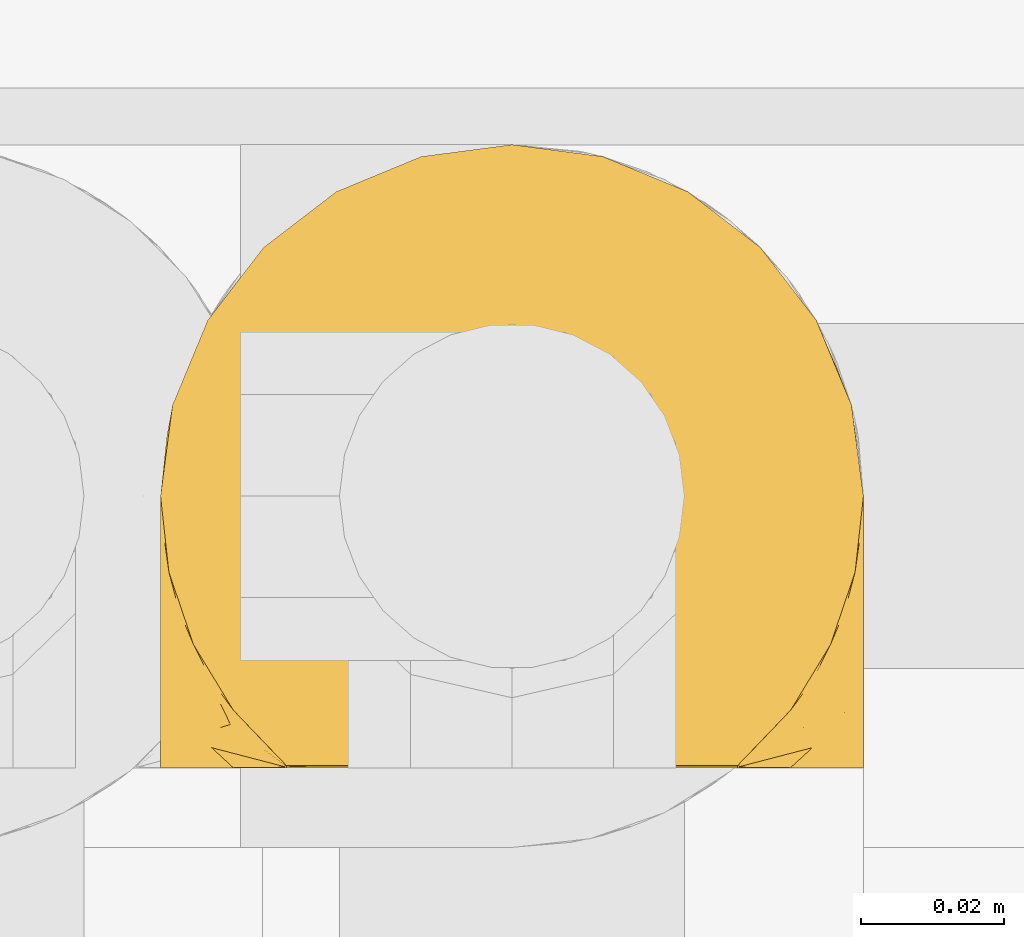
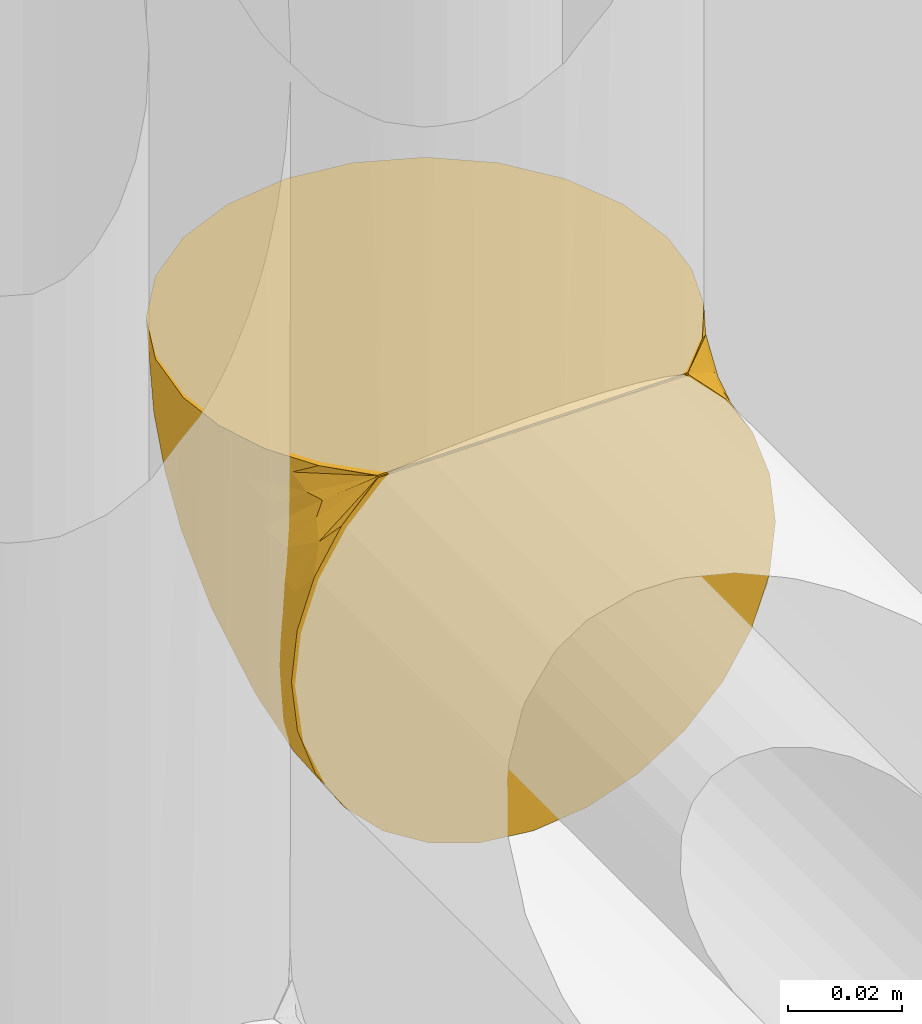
# One storey, part 51 of 94: 1 covering.
"""IFC2X3 building model written with IfcOpenShell, lengths in millimetres."""

from ifc_helpers import new_model, entity, si_unit, converted_unit, derived_unit, direction, frame, origin, place, context, subcontext, project, spatial, faceted_brep, material, element, save


model = new_model("IFC2X3")

# Units and contexts
model_context = context("Model", 3, precision=0.01, world=origin(), true_north=direction((6.123031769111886e-17, 1.0)))
body_context = subcontext(model_context, "Body", "Model", "MODEL_VIEW")
ifc_project = project(units=[si_unit("LENGTHUNIT", "METRE", prefix="MILLI"), si_unit("AREAUNIT", "SQUARE_METRE"), si_unit("VOLUMEUNIT", "CUBIC_METRE"), converted_unit("PLANEANGLEUNIT", "DEGREE", entity("IfcRatioMeasure", 0.017453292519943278), si_unit("PLANEANGLEUNIT", "RADIAN"), dimensions=[0, 0, 0, 0, 0, 0, 0]), si_unit("MASSUNIT", "GRAM", prefix="KILO"), derived_unit("MASSDENSITYUNIT", [(si_unit("MASSUNIT", "GRAM", prefix="KILO"), 1), (si_unit("LENGTHUNIT", "METRE"), -3)]), derived_unit("IONCONCENTRATIONUNIT", [(si_unit("MASSUNIT", "GRAM", prefix="KILO"), 1), (si_unit("LENGTHUNIT", "METRE"), -3)]), derived_unit("MOMENTOFINERTIAUNIT", [(si_unit("LENGTHUNIT", "METRE"), 4)]), si_unit("TIMEUNIT", "SECOND"), si_unit("FREQUENCYUNIT", "HERTZ"), si_unit("THERMODYNAMICTEMPERATUREUNIT", "DEGREE_CELSIUS"), derived_unit("THERMALTRANSMITTANCEUNIT", [(si_unit("MASSUNIT", "GRAM", prefix="KILO"), 1), (si_unit("THERMODYNAMICTEMPERATUREUNIT", "KELVIN"), -1), (si_unit("TIMEUNIT", "SECOND"), -3)]), derived_unit("THERMALCONDUCTANCEUNIT", [(si_unit("MASSUNIT", "GRAM", prefix="KILO"), 1), (si_unit("THERMODYNAMICTEMPERATUREUNIT", "KELVIN"), -1), (si_unit("TIMEUNIT", "SECOND"), -3), (si_unit("LENGTHUNIT", "METRE"), 1)]), derived_unit("VOLUMETRICFLOWRATEUNIT", [(si_unit("LENGTHUNIT", "METRE"), 3), (si_unit("TIMEUNIT", "SECOND"), -1)]), derived_unit("MASSFLOWRATEUNIT", [(si_unit("MASSUNIT", "GRAM", prefix="KILO"), 1), (si_unit("TIMEUNIT", "SECOND"), -1)]), derived_unit("ROTATIONALFREQUENCYUNIT", [(si_unit("TIMEUNIT", "SECOND"), -1)]), si_unit("ELECTRICCURRENTUNIT", "AMPERE"), si_unit("ELECTRICVOLTAGEUNIT", "VOLT"), si_unit("POWERUNIT", "WATT"), si_unit("FORCEUNIT", "NEWTON", prefix="KILO"), si_unit("ILLUMINANCEUNIT", "LUX"), si_unit("LUMINOUSFLUXUNIT", "LUMEN"), si_unit("LUMINOUSINTENSITYUNIT", "CANDELA"), derived_unit("USERDEFINED", [(si_unit("MASSUNIT", "GRAM", prefix="KILO"), -1), (si_unit("LENGTHUNIT", "METRE"), -2), (si_unit("TIMEUNIT", "SECOND"), 3), (si_unit("LUMINOUSFLUXUNIT", "LUMEN"), 1)]), derived_unit("USERDEFINED", [(si_unit("MASSUNIT", "GRAM", prefix="KILO"), 1), (si_unit("TIMEUNIT", "SECOND"), -3), (si_unit("LENGTHUNIT", "METRE"), 3), (si_unit("ELECTRICCURRENTUNIT", "AMPERE"), -2)]), derived_unit("SOUNDPOWERUNIT", [(si_unit("MASSUNIT", "GRAM", prefix="KILO"), 1), (si_unit("TIMEUNIT", "SECOND"), -3), (si_unit("LENGTHUNIT", "METRE"), 2)]), derived_unit("SOUNDPRESSUREUNIT", [(si_unit("MASSUNIT", "GRAM", prefix="KILO"), 1), (si_unit("LENGTHUNIT", "METRE"), -1), (si_unit("TIMEUNIT", "SECOND"), -2)]), derived_unit("LINEARVELOCITYUNIT", [(si_unit("LENGTHUNIT", "METRE"), 1), (si_unit("TIMEUNIT", "SECOND"), -1)]), si_unit("PRESSUREUNIT", "PASCAL"), derived_unit("USERDEFINED", [(si_unit("MASSUNIT", "GRAM", prefix="KILO"), 1), (si_unit("LENGTHUNIT", "METRE"), -2), (si_unit("TIMEUNIT", "SECOND"), -2)]), derived_unit("LINEARFORCEUNIT", [(si_unit("MASSUNIT", "GRAM", prefix="KILO"), 1), (si_unit("TIMEUNIT", "SECOND"), -2)]), derived_unit("PLANARFORCEUNIT", [(si_unit("MASSUNIT", "GRAM", prefix="KILO"), 1), (si_unit("LENGTHUNIT", "METRE"), -1), (si_unit("TIMEUNIT", "SECOND"), -2)]), derived_unit("SPECIFICHEATCAPACITYUNIT", [(si_unit("THERMODYNAMICTEMPERATUREUNIT", "KELVIN"), -1), (si_unit("LENGTHUNIT", "METRE"), 2), (si_unit("TIMEUNIT", "SECOND"), -2)]), derived_unit("HEATINGVALUEUNIT", [(si_unit("LENGTHUNIT", "METRE"), 2), (si_unit("TIMEUNIT", "SECOND"), -2)]), derived_unit("VAPORPERMEABILITYUNIT", [(si_unit("LENGTHUNIT", "METRE"), -1), (si_unit("TIMEUNIT", "SECOND"), 1)]), derived_unit("DYNAMICVISCOSITYUNIT", [(si_unit("MASSUNIT", "GRAM", prefix="KILO"), 1), (si_unit("TIMEUNIT", "SECOND"), -1), (si_unit("LENGTHUNIT", "METRE"), -1)]), derived_unit("THERMALEXPANSIONCOEFFICIENTUNIT", [(si_unit("THERMODYNAMICTEMPERATUREUNIT", "KELVIN"), -1)]), derived_unit("MODULUSOFELASTICITYUNIT", [(si_unit("MASSUNIT", "GRAM", prefix="KILO"), 1), (si_unit("LENGTHUNIT", "METRE"), -1), (si_unit("TIMEUNIT", "SECOND"), -2)]), derived_unit("ISOTHERMALMOISTURECAPACITYUNIT", [(si_unit("LENGTHUNIT", "METRE"), 3), (si_unit("MASSUNIT", "GRAM", prefix="KILO"), -1)]), derived_unit("MOISTUREDIFFUSIVITYUNIT", [(si_unit("TIMEUNIT", "SECOND"), -1), (si_unit("LENGTHUNIT", "METRE"), 2)])], contexts=[model_context])

# Site, building, storey
site_placement = place(None, origin())
site = spatial("IfcSite", under=ifc_project, at=site_placement, Name="Default", CompositionType="ELEMENT")
building_placement = place(site_placement, origin())
building = spatial("IfcBuilding", under=site, at=building_placement, CompositionType="ELEMENT")
storey_placement = place(building_placement, origin())
storey = spatial("IfcBuildingStorey", under=building, at=storey_placement, Name="Niveau 0", CompositionType="ELEMENT", Elevation=0.0)

# Covering
ifc_material = material(Name="Isolation - Laine minérale")
covering_placement = place(storey_placement, frame((-6977.4859544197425, 9987.250352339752, 557.254727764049)))
element("IfcCovering", 1, at=covering_placement, inside=storey, material=ifc_material, Name="Isolation des canalisations:Laine minérale", ObjectType="Isolation des canalisations:Laine minérale", PredefinedType="INSULATION", context=body_context, shape_type="Brep", body=[
    faceted_brep([(6.466386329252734, 1.5952722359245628, 29.412134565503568), (12.324234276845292, 1.5952722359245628, 20.093252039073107), (20.107905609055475, 1.5952722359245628, 12.312548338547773), (29.426998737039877, 1.5952722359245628, 6.459227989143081), (39.814613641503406, 1.5952722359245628, 2.8261403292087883), (50.74527223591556, 1.5952722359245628, 1.5952722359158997), (61.68764083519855, 1.5952722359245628, 2.8288129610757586), (72.07840990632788, 1.5952722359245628, 6.466386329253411), (81.39729243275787, 1.5952722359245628, 12.32423427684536), (89.17799613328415, 1.5952722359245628, 20.10790560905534), (95.03131648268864, 1.5952722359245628, 29.426998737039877), (98.66440414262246, 1.5952722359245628, 39.814613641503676), (99.89527223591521, 1.5952722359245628, 50.74527223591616), (98.72554303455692, 1.5952722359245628, 61.40435822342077), (95.27367575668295, 1.5952722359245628, 71.55257335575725), (89.70550239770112, 1.5952722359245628, 80.70896636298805), (82.29617110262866, 1.5952722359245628, 88.43165280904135), (79.85190220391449, 1.5952722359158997, 88.43165280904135), (78.07484973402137, 1.5952722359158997, 88.43165280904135), (76.29779726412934, 1.5952722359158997, 88.43165280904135), (74.79820380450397, 1.5952722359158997, 88.43165280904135), (73.2986103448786, 1.5952722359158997, 88.43165280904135), (70.29942342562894, 1.5952722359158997, 88.43165280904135), (67.3002365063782, 1.5952722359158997, 88.43165280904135), (64.30104958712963, 1.5952722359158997, 88.43165280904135), (61.301862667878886, 1.5952722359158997, 88.43165280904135), (59.8022692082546, 1.5952722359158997, 88.43165280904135), (58.30267574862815, 1.5952722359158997, 88.43165280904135), (55.858406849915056, 1.5952722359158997, 88.43165280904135), (53.41413795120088, 1.5952722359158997, 88.43165280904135), (50.96986905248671, 1.5952722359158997, 88.43165280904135), (48.52560015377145, 1.5952722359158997, 88.43165280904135), (46.08133125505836, 1.5952722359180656, 88.43165280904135), (43.6370623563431, 1.5952722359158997, 88.43165280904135), (41.19279345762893, 1.5952722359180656, 88.43165280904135), (38.74852455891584, 1.5952722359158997, 88.43165280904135), (36.30425566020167, 1.5952722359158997, 88.43165280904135), (33.85998676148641, 1.5952722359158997, 88.43165280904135), (31.41571786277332, 1.5952722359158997, 88.43165280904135), (28.971448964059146, 1.5952722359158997, 88.43165280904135), (26.52718006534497, 1.5952722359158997, 88.43165280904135), (24.082911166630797, 1.5952722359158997, 88.43165280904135), (21.638642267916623, 1.5952722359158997, 88.43165280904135), (19.19437336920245, 1.5952722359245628, 88.43165280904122), (11.772270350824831, 1.5952722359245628, 80.69235262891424), (6.206858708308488, 1.5952722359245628, 71.53113811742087), (2.7604612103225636, 1.5952722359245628, 61.38390047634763), (1.5952722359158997, 1.5952722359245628, 50.74527223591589), (2.828812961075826, 1.5952722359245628, 39.80290363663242), (82.29617110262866, 1.908891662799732, 88.74527223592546), (89.71348765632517, 9.641963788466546, 88.74527223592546), (95.27868204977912, 18.798688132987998, 88.74527223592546), (98.72724589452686, 28.94385431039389, 88.74527223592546), (99.8952722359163, 39.59527223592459, 88.74527223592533), (98.22052659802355, 52.31622830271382, 88.74527223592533), (93.31042083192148, 64.1702722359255, 88.74527223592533), (85.49957053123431, 74.34957053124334, 88.74527223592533), (75.32027223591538, 82.16042083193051, 88.74527223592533), (63.46622830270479, 87.07052659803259, 88.74527223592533), (50.74527223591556, 88.74527223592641, 88.74527223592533), (38.0243161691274, 87.07052659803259, 88.74527223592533), (26.17027223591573, 82.16042083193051, 88.74527223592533), (15.990973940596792, 74.34957053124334, 88.74527223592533), (8.180123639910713, 64.1702722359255, 88.74527223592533), (3.2700178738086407, 52.31622830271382, 88.74527223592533), (1.5952722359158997, 39.59527223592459, 88.74527223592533), (2.7632985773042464, 28.94385431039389, 88.74527223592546), (6.211862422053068, 18.798688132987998, 88.74527223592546), (11.777056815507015, 9.641963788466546, 88.74527223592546), (19.19437336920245, 1.908891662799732, 88.74527223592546), (21.638642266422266, 1.908891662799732, 88.74527223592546), (23.138235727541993, 1.908891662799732, 88.74527223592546), (25.110166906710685, 1.908891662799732, 88.74527223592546), (27.082098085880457, 1.908891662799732, 88.74527223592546), (29.05402926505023, 1.908891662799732, 88.74527223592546), (31.02596044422, 1.908891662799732, 88.74527223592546), (32.99789162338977, 1.908891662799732, 88.74527223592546), (34.96982280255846, 1.908891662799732, 88.74527223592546), (36.94175398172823, 1.908891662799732, 88.74527223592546), (38.913685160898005, 1.908891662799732, 88.74527223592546), (40.88561634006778, 1.908891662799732, 88.74527223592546), (42.85754751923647, 1.908891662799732, 88.74527223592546), (44.82947869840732, 1.908891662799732, 88.74527223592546), (46.80140987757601, 1.908891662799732, 88.74527223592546), (48.773341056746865, 1.908891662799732, 88.74527223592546), (50.74527223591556, 1.908891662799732, 88.74527223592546), (52.71720341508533, 1.908891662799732, 88.74527223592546), (54.6891345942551, 1.908891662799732, 88.74527223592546), (56.661065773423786, 1.908891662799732, 88.74527223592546), (58.632996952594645, 1.908891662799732, 88.74527223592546), (60.60492813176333, 1.908891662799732, 88.74527223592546), (62.5768593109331, 1.908891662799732, 88.74527223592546), (64.54879049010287, 1.908891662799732, 88.74527223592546), (66.52072166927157, 1.908891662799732, 88.74527223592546), (69.51990859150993, 1.908891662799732, 88.74527223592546), (72.51909551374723, 1.908891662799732, 88.74527223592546), (74.96336441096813, 1.908891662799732, 88.74527223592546), (77.40763330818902, 1.908891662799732, 88.74527223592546), (79.85190220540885, 1.908891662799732, 88.74527223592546), (47.73720476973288, 1.8241875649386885, 88.53090125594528), (49.65777912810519, 1.8156242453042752, 88.52210831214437), (40.017642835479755, 1.8147227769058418, 88.52122178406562), (37.92771907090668, 1.8212241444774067, 88.52777998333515), (53.48951745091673, 1.8331787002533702, 88.54092532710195), (24.240550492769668, 1.828016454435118, 88.53506454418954), (20.791406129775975, 1.7792781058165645, 88.49130573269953), (59.05247302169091, 1.8114926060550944, 88.51810292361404), (78.62976787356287, 1.817034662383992, 88.5235098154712), (76.79032803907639, 1.81898896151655, 88.52548149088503), (30.120454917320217, 1.8098308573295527, 88.51653277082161), (28.08670561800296, 1.820221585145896, 88.52674320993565), (57.08054182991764, 1.7964621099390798, 88.50469006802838), (63.562825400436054, 1.8230063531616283, 88.52964682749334), (61.67745907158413, 1.826296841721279, 88.53317608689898), (65.53475654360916, 1.8091041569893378, 88.51585328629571), (51.73123795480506, 1.8225274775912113, 88.52914218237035), (80.46296948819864, 1.8194169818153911, 88.52591800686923), (45.815443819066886, 1.8294378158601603, 88.53664906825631), (33.98385679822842, 1.8301744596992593, 88.5374788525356), (35.87599747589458, 1.825888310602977, 88.53273195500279), (67.38596354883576, 1.8272900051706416, 88.53426299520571), (43.93836928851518, 1.8267767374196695, 88.53370000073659), (22.3884388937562, 1.817034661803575, 88.52350981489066), (26.096132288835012, 1.8278964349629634, 88.53493173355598), (19.19437336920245, 1.8170346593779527, 88.52350981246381), (19.19437336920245, 1.747915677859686, 88.49487979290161), (19.194373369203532, 1.6787966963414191, 88.46624977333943), (82.29617110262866, 1.8170346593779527, 88.52350981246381), (82.29617110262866, 1.8456646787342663, 88.59262879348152), (82.29617110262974, 1.8742946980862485, 88.6617477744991), (69.27838714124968, 1.8026539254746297, 88.51000647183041), (32.054952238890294, 1.8237404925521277, 88.53042484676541), (55.242256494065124, 1.8159875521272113, 88.52246762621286), (41.99993111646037, 1.8182226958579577, 88.52470424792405), (72.07129245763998, 1.7977740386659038, 88.50579329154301), (74.04840730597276, 1.8208977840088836, 88.52744143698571), (19.19437336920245, 1.8742946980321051, 88.6617477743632), (19.19437336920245, 1.8456646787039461, 88.59262879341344), (82.29617110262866, 1.6787966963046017, 88.46624977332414), (82.29617110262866, 1.7479156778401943, 88.49487979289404), (97.28026065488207, 23.495219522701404, 85.22080157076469), (92.74636463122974, 13.747756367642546, 85.93611072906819), (97.28026068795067, 22.409779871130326, 81.07807843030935), (91.53496062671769, 10.562522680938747, 83.132892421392), (99.89527223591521, 37.049754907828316, 79.24527223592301), (99.89527223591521, 37.59734391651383, 81.28890223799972), (99.89527223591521, 20.595272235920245, 55.83630689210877), (98.55504664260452, 16.02014974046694, 66.39553001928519), (97.27709237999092, 9.26167767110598, 67.94040403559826), (99.89527223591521, 34.50423757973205, 69.74527223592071), (92.08523869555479, 9.667897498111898, 80.67378389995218), (91.52705697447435, 7.2029124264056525, 79.78892094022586), (98.554902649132, 23.944746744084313, 74.32109358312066), (97.27709230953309, 5.119390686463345, 66.85470593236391), (92.73988957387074, 4.4028932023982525, 76.60336361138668), (95.7999166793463, 17.541506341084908, 79.64911936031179), (99.89527223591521, 9.051642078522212, 52.74320051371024), (99.89527223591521, 11.095272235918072, 53.2907895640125), (97.0079248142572, 16.728859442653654, 73.61168493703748), (99.89527223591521, 27.549754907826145, 62.79078956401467), (95.72448717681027, 12.071559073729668, 73.87988529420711), (98.87881941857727, 47.623950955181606, 75.32913676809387), (98.83301276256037, 44.00144112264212, 65.91074185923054), (90.35896612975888, 58.89969890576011, 53.84761415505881), (80.6658965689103, 72.66771487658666, 59.136511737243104), (89.73858973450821, 67.20155656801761, 71.16612245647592), (96.15395204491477, 54.07984229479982, 67.00545271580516), (96.15395161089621, 57.54110754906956, 78.8805128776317), (50.74527223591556, 72.10110329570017, 37.51978749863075), (50.74527223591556, 84.47984763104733, 61.81444117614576), (61.15080493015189, 80.24801351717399, 53.87520138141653), (92.3663011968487, 13.851436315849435, 25.784943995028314), (97.13949915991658, 15.165285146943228, 36.24418276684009), (68.8435902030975, 60.77765845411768, 29.56288236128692), (77.72163513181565, 55.38583609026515, 30.77068194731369), (65.87522637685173, 43.89737524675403, 15.29222269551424), (59.79441061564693, 86.12648113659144, 71.31385843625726), (70.98072673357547, 73.23168363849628, 47.24102741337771), (79.74211405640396, 64.74738573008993, 43.503893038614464), (80.66589650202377, 77.40373146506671, 75.28985257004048), (69.5541617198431, 82.14716981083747, 67.10273039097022), (85.50619835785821, 52.829115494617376, 37.09920094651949), (91.98084112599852, 48.878965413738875, 44.515176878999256), (90.08477530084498, 40.60722086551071, 33.704776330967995), (97.76701228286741, 28.769953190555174, 44.05169469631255), (92.3663016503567, 27.448445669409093, 30.044081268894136), (85.50619671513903, 19.800365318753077, 18.312338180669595), (50.74527223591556, 28.52610329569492, 5.860696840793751), (66.98519337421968, 22.715621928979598, 7.041406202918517), (82.954609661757, 42.31748570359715, 25.61446965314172), (76.90235033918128, 33.68382770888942, 15.88691587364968), (76.90235057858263, 16.806973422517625, 10.600409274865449), (62.41468564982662, 71.07858054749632, 38.50378416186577), (59.144359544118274, 60.332491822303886, 25.34518062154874), (98.927292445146, 33.37332146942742, 53.16350413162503), (50.74527223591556, 52.82075697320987, 18.239441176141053), (96.76809515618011, 43.46542968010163, 52.6946987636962), (31.93638344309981, 79.20017463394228, 58.175892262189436), (41.905436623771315, 86.24488809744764, 71.7009127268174), (41.6251186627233, 80.83807017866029, 54.574333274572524), (35.352647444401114, 72.52816019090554, 42.49805076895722), (31.93638226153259, 83.87397883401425, 75.06235489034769), (15.99722250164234, 35.798660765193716, 24.525141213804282), (22.501954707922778, 48.02046276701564, 25.786342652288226), (24.603113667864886, 33.68736739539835, 15.878231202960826), (15.997599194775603, 52.83844921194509, 37.08979212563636), (23.203879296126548, 59.75598123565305, 35.713362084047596), (4.355753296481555, 15.17001623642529, 36.231508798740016), (2.5375085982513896, 45.55141709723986, 70.53804152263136), (1.5952722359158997, 34.50423757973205, 69.74527223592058), (1.5952722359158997, 37.049754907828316, 79.24527223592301), (34.51880576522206, 22.714677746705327, 7.036299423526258), (20.824647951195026, 76.07714087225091, 69.24086116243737), (9.133617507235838, 27.454651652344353, 30.03051209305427), (9.133617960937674, 13.854008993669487, 25.770245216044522), (11.75195503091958, 68.47065883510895, 76.87540408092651), (5.336592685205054, 56.4584334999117, 74.00473445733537), (21.86570570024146, 68.0885450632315, 48.41047025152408), (11.751954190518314, 64.29272071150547, 62.62553049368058), (41.98238524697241, 66.01125638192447, 31.220776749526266), (32.65601578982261, 60.78019542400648, 29.560345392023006), (2.477909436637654, 48.01911236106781, 79.82666983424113), (24.603113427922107, 16.809109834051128, 10.591274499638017), (35.63402191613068, 43.900853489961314, 15.28724730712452), (15.997600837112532, 19.803681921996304, 18.299506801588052), (3.7266594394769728, 28.78672684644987, 44.049870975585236), (1.5952722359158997, 20.595272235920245, 55.8363068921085), (2.7012349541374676, 35.485066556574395, 54.2353624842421), (1.5952722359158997, 27.549754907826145, 62.79078956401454), (1.5952722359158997, 9.051642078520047, 52.7432005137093), (1.5952722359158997, 11.095272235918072, 53.29078956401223), (9.986684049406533, 53.16291239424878, 48.41211537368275), (5.063713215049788, 52.05308452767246, 64.14304703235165), (8.340625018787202, 41.40103739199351, 40.1064026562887), (2.4071726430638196, 40.7212219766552, 62.89073418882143), (15.399468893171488, 60.91677547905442, 47.67277833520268), (4.812375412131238, 45.940611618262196, 55.389558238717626), (4.210284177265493, 22.409778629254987, 81.07807840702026), (5.763920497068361, 16.46425424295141, 78.26566497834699), (2.935886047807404, 23.943292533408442, 74.32072912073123), (4.210284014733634, 23.495218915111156, 85.22080145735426), (8.74418018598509, 13.747755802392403, 85.93611080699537), (9.954133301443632, 10.564867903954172, 83.13257230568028), (11.377788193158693, 7.656624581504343, 82.6819800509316), (4.485349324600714, 16.72348133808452, 73.61706381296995), (9.940890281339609, 7.216517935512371, 79.75777141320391), (4.2062740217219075, 9.263185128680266, 67.9184535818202), (4.206273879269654, 5.119593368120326, 66.8333475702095), (8.739069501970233, 4.4058785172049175, 76.58449008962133), (2.9361309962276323, 16.018627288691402, 66.39770760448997), (5.684713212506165, 10.692146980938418, 72.78382599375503)], [[[0, 1, 2, 3, 4, 5, 6, 7, 8, 9, 10, 11, 12, 13, 14, 15, 16, 17, 18, 19, 20, 21, 22, 23, 24, 25, 26, 27, 28, 29, 30, 31, 32, 33, 34, 35, 36, 37, 38, 39, 40, 41, 42, 43, 44, 45, 46, 47, 48]], [[49, 50, 51, 52, 53, 54, 55, 56, 57, 58, 59, 60, 61, 62, 63, 64, 65, 66, 67, 68, 69, 70, 71, 72, 73, 74, 75, 76, 77, 78, 79, 80, 81, 82, 83, 84, 85, 86, 87, 88, 89, 90, 91, 92, 93, 94, 95, 96, 97, 98]], [[99, 100, 84]], [[101, 102, 35]], [[86, 103, 87]], [[72, 71, 104]], [[105, 70, 69]], [[27, 26, 106]], [[18, 107, 108]], [[109, 74, 110]], [[28, 27, 111]], [[25, 112, 113]], [[108, 97, 96]], [[114, 93, 92]], [[103, 86, 115]], [[97, 107, 98]], [[107, 17, 116]], [[79, 102, 101]], [[99, 117, 32]], [[77, 118, 119]], [[120, 93, 114]], [[112, 91, 113]], [[89, 111, 106]], [[40, 39, 110]], [[107, 97, 108]], [[32, 117, 121]], [[92, 91, 112]], [[37, 119, 118]], [[85, 115, 86]], [[70, 105, 122]], [[72, 123, 73]], [[105, 124, 125, 126, 43]], [[116, 17, 16]], [[122, 71, 70]], [[41, 122, 42]], [[116, 127, 128, 129, 49]], [[110, 123, 40]], [[42, 122, 105]], [[120, 23, 130]], [[24, 114, 112]], [[114, 24, 23]], [[104, 123, 72]], [[92, 112, 114]], [[104, 122, 41]], [[24, 112, 25]], [[110, 73, 123]], [[36, 119, 37]], [[40, 123, 41]], [[75, 74, 109]], [[131, 76, 75]], [[118, 131, 37]], [[109, 110, 39]], [[109, 39, 38]], [[74, 73, 110]], [[123, 104, 41]], [[122, 104, 71]], [[26, 25, 113]], [[113, 90, 106]], [[88, 87, 132]], [[113, 106, 26]], [[77, 76, 118]], [[132, 111, 88]], [[106, 111, 27]], [[132, 28, 111]], [[88, 111, 89]], [[89, 106, 90]], [[113, 91, 90]], [[131, 118, 76]], [[38, 37, 131]], [[119, 36, 102]], [[131, 109, 38]], [[109, 131, 75]], [[79, 78, 102]], [[78, 119, 102]], [[78, 77, 119]], [[121, 81, 133]], [[36, 35, 102]], [[33, 121, 133]], [[80, 79, 101]], [[34, 101, 35]], [[132, 29, 28]], [[81, 80, 133]], [[29, 103, 115]], [[30, 29, 115]], [[87, 103, 132]], [[100, 115, 85]], [[31, 30, 100]], [[115, 100, 30]], [[32, 31, 99]], [[117, 82, 121]], [[100, 85, 84]], [[99, 83, 117]], [[82, 117, 83]], [[33, 32, 121]], [[83, 99, 84]], [[100, 99, 31]], [[34, 33, 133]], [[121, 82, 81]], [[133, 101, 34]], [[101, 133, 80]], [[134, 95, 94]], [[23, 120, 114]], [[132, 103, 29]], [[120, 94, 93]], [[94, 120, 130]], [[98, 107, 116]], [[108, 20, 19, 18]], [[21, 135, 134]], [[20, 135, 21]], [[134, 135, 95]], [[108, 96, 135]], [[108, 135, 20]], [[135, 96, 95]], [[134, 22, 21]], [[130, 22, 134]], [[42, 105, 43]], [[105, 69, 136, 137, 124]], [[98, 116, 49]], [[116, 16, 138, 139, 127]], [[18, 17, 107]], [[94, 130, 134]], [[22, 130, 23]], [[140, 141, 142]], [[143, 129, 128, 127]], [[52, 144, 145, 53]], [[146, 147, 148]], [[142, 149, 144]], [[150, 127, 151]], [[51, 140, 52]], [[142, 152, 149]], [[52, 140, 144]], [[129, 143, 141]], [[14, 13, 153]], [[148, 151, 154]], [[155, 141, 143]], [[151, 138, 154]], [[14, 153, 154]], [[16, 15, 138]], [[13, 12, 156, 157]], [[152, 155, 158]], [[159, 158, 147]], [[157, 148, 153]], [[14, 154, 15]], [[50, 49, 129]], [[50, 129, 141]], [[141, 51, 50]], [[160, 148, 147]], [[146, 148, 157]], [[138, 15, 154]], [[150, 158, 155]], [[151, 127, 139, 138]], [[141, 140, 51]], [[144, 140, 142]], [[157, 153, 13]], [[154, 153, 148]], [[149, 152, 159]], [[160, 147, 158]], [[147, 146, 159]], [[155, 152, 142]], [[159, 152, 158]], [[127, 150, 143]], [[160, 150, 151]], [[150, 160, 158]], [[148, 160, 151]], [[141, 155, 142]], [[155, 143, 150]], [[156, 12, 11]], [[161, 149, 162]], [[163, 164, 165]], [[166, 167, 161]], [[168, 169, 170]], [[55, 165, 56]], [[171, 172, 10]], [[173, 174, 175]], [[58, 176, 59]], [[173, 177, 178]], [[179, 57, 56]], [[55, 167, 165]], [[170, 180, 177]], [[57, 179, 180]], [[167, 55, 54]], [[181, 182, 183]], [[184, 146, 172]], [[172, 185, 184]], [[186, 185, 171]], [[186, 9, 8]], [[172, 146, 157, 156]], [[172, 11, 10]], [[173, 178, 174]], [[6, 187, 188]], [[189, 186, 190]], [[191, 186, 8]], [[175, 190, 188]], [[168, 192, 193]], [[189, 190, 174]], [[57, 180, 58]], [[8, 7, 191]], [[188, 7, 6]], [[6, 5, 187]], [[190, 191, 188]], [[159, 194, 162]], [[175, 187, 195]], [[177, 180, 164]], [[10, 9, 171]], [[176, 180, 170]], [[156, 11, 172]], [[163, 165, 166]], [[179, 165, 164]], [[54, 53, 145]], [[185, 189, 183]], [[184, 196, 194]], [[188, 191, 7]], [[186, 191, 190]], [[186, 171, 9]], [[172, 171, 185]], [[187, 175, 188]], [[193, 175, 195]], [[196, 163, 166]], [[163, 181, 178]], [[162, 166, 161]], [[184, 185, 183]], [[178, 177, 164]], [[177, 192, 170]], [[177, 173, 192]], [[176, 170, 169]], [[59, 176, 169]], [[58, 180, 176]], [[193, 192, 173]], [[168, 170, 192]], [[175, 193, 173]], [[168, 193, 195]], [[163, 178, 164]], [[184, 194, 146]], [[178, 181, 174]], [[189, 174, 181]], [[175, 174, 190]], [[183, 189, 181]], [[186, 189, 185]], [[182, 181, 163]], [[183, 182, 184]], [[163, 196, 182]], [[184, 182, 196]], [[165, 179, 56]], [[180, 179, 164]], [[161, 54, 145]], [[165, 167, 166]], [[54, 161, 167]], [[161, 145, 144, 149]], [[159, 162, 149]], [[196, 166, 162]], [[162, 194, 196]], [[146, 194, 159]], [[197, 198, 199]], [[59, 169, 198]], [[197, 199, 200]], [[198, 197, 201]], [[202, 203, 204]], [[61, 60, 201]], [[205, 206, 203]], [[0, 48, 207]], [[208, 209, 210]], [[187, 4, 211]], [[201, 212, 61]], [[213, 214, 207]], [[62, 215, 63]], [[63, 215, 216]], [[3, 211, 4]], [[217, 218, 212]], [[219, 220, 200]], [[216, 208, 221]], [[3, 2, 222]], [[63, 216, 64]], [[62, 61, 212]], [[211, 3, 222]], [[5, 4, 187]], [[217, 197, 200]], [[203, 223, 204]], [[2, 1, 224]], [[225, 213, 207]], [[204, 222, 224]], [[1, 0, 214]], [[204, 224, 202]], [[207, 226, 225]], [[227, 226, 228]], [[223, 211, 204]], [[214, 224, 1]], [[202, 224, 213]], [[48, 47, 229]], [[207, 229, 230, 226]], [[211, 223, 187]], [[218, 231, 232]], [[48, 229, 207]], [[205, 233, 231]], [[233, 213, 225]], [[217, 212, 197]], [[215, 212, 218]], [[228, 234, 227]], [[233, 205, 202]], [[208, 234, 209]], [[64, 221, 65]], [[235, 205, 231]], [[207, 214, 0]], [[224, 214, 213]], [[224, 222, 2]], [[211, 222, 204]], [[219, 223, 220]], [[187, 223, 195]], [[227, 233, 225]], [[234, 228, 209]], [[231, 233, 236]], [[221, 208, 210]], [[232, 208, 216]], [[65, 221, 210]], [[216, 221, 64]], [[233, 202, 213]], [[203, 202, 205]], [[205, 235, 206]], [[223, 203, 220]], [[200, 206, 217]], [[220, 203, 206]], [[232, 231, 236]], [[235, 218, 217]], [[212, 215, 62]], [[216, 215, 218]], [[218, 232, 216]], [[234, 232, 236]], [[232, 234, 208]], [[234, 236, 227]], [[233, 227, 236]], [[226, 227, 225]], [[198, 201, 60]], [[212, 201, 197]], [[59, 198, 60]], [[198, 169, 199]], [[169, 168, 199]], [[219, 200, 199]], [[219, 199, 168]], [[200, 220, 206]], [[168, 195, 219]], [[223, 219, 195]], [[218, 235, 231]], [[206, 235, 217]], [[66, 65, 210]], [[209, 237, 210]], [[238, 237, 239]], [[67, 240, 241]], [[242, 136, 241]], [[243, 137, 242]], [[243, 244, 245]], [[66, 240, 67]], [[136, 69, 68]], [[136, 68, 241]], [[246, 226, 230]], [[67, 241, 68]], [[210, 237, 240]], [[45, 247, 46]], [[209, 239, 237]], [[246, 247, 248]], [[46, 247, 230]], [[249, 250, 244]], [[239, 228, 244]], [[226, 246, 249]], [[250, 248, 245]], [[44, 43, 126]], [[237, 242, 241]], [[248, 45, 44]], [[44, 126, 248]], [[46, 230, 229, 47]], [[245, 126, 125]], [[126, 245, 248]], [[243, 124, 137]], [[210, 240, 66]], [[241, 240, 237]], [[248, 247, 45]], [[230, 247, 246]], [[226, 249, 228]], [[238, 239, 244]], [[239, 209, 228]], [[250, 249, 246]], [[228, 249, 244]], [[243, 242, 238]], [[136, 242, 137]], [[124, 243, 125]], [[125, 243, 245]], [[243, 238, 244]], [[237, 238, 242]], [[248, 250, 246]], [[244, 250, 245]]]),
])

save(model, "model.ifc")
